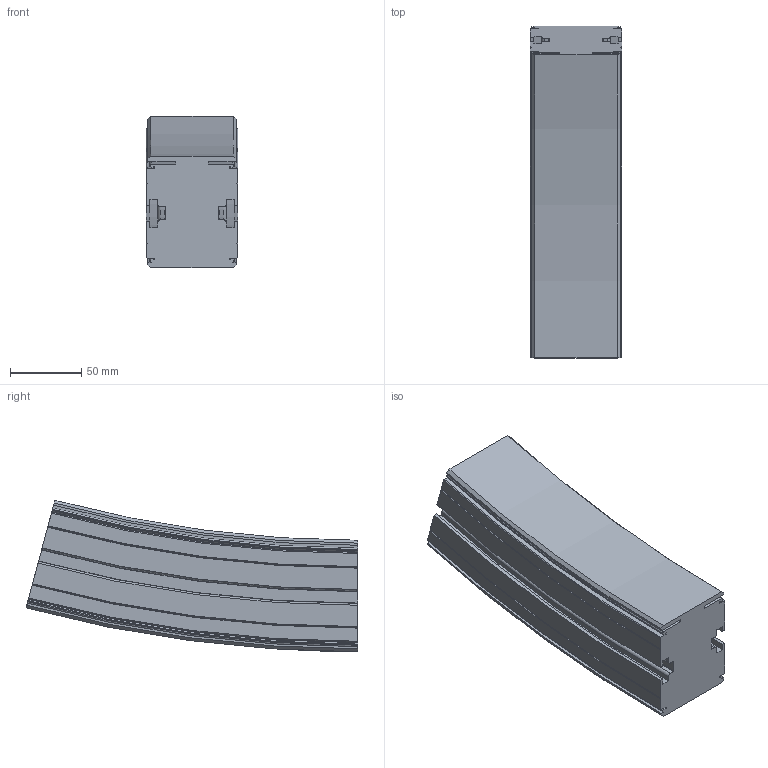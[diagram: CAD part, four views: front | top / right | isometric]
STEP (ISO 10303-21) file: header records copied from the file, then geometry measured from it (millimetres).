
FILE_DESCRIPTION(/* description */ ('VERTIKALKURVA S620 R860'),/* implementation_level */ '2;1');
FILE_NAME(/* name */ '\\carryline.intra\privat\users\mathias\Desktop\Tillfälliga filer\620-5695+620-2000-NER-01.stp',/* time_stamp */ '2018-12-06T07:03:19+01:00',/* author */ ('MD'),/* organization */ ('CARRYLINE'),/* preprocessor_version */ 'ST-DEVELOPER v17',/* originating_system */ 'Autodesk Inventor 2018',/* authorisation */ '');
FILE_SCHEMA (('AUTOMOTIVE_DESIGN { 1 0 10303 214 3 1 1 }'));
Length unit declared in the file: millimetre
Products named in the file (1): 620-5695+620-2000-NER-01
Bounding box: 64 x 232.42 x 105.94 mm (x, y, z)
Volume: 1004595.2 mm3; surface area: 116454.2 mm2
Topology: 1 solids, 1 shells, 149 faces, 426 edges, 284 vertices
Faces by surface type: plane 54, cylinder 37, torus 28, cone 16, bspline 14
Entity records: 9536 total; most frequent: CARTESIAN_POINT 5516, ORIENTED_EDGE 852, DIRECTION 836, EDGE_CURVE 426, AXIS2_PLACEMENT_3D 315, VERTEX_POINT 284, LINE 206, VECTOR 206
